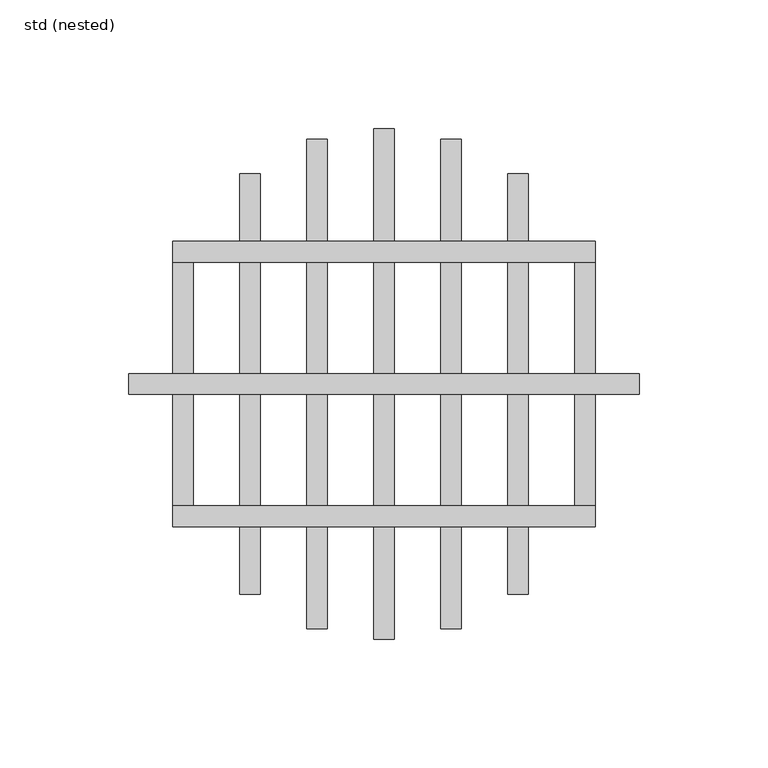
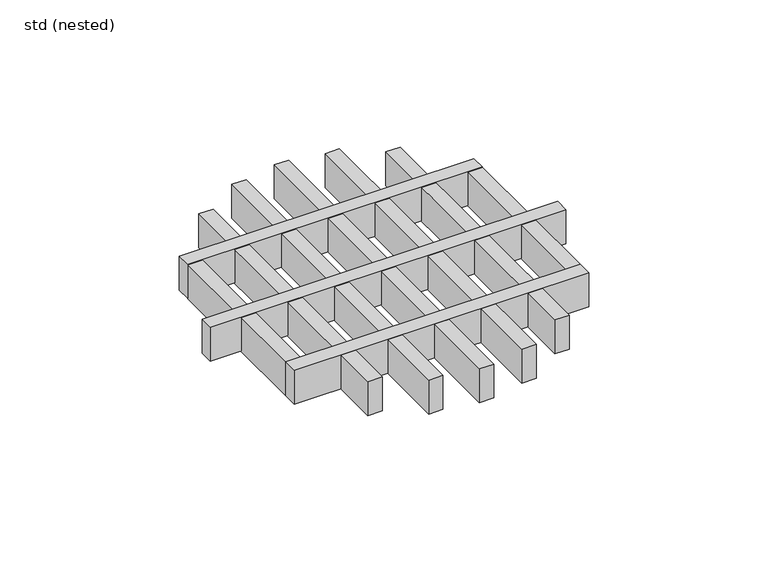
"""IFC4 building model written with IfcOpenShell, lengths in millimetres: sanitary terminal geometry, ZZZ_do not use_PF_ST_UN_round grating for hygienic gully_ACO : std (nested)."""

import ifcopenshell
import ifcopenshell.guid

model = None  # the IFC model being written
_history = None  # IfcOwnerHistory: only IFC2X3 demands one
_inside = {}  # id of a spatial element -> (the spatial element, [elements in it])
_under = {}  # id of a project, library or spatial element -> (it, [spatial elements below it])
_declared = {}  # id of a project -> (the project, [libraries it declares])
_typed = {}  # id of a type object -> (the type object, [elements of that type])
_made_of = {}  # id of a material, layer set ... -> (it, [elements and type objects made of it])


def new_model(schema):
    """Start an empty IFC model of exactly this schema.

    Asked for "IFC4X3", IfcOpenShell would pick the latest addendum, in which some entities
    have other attributes; the version numbers below select the first issue.
    IFC2X3 requires an IfcOwnerHistory on every rooted entity: one is made here for all.
    """
    global model, _history
    if schema == "IFC4X3":
        model = ifcopenshell.file(schema_version=(4, 3, 0, 0))
    else:
        model = ifcopenshell.file(schema=schema)
    _inside.clear()
    _under.clear()
    _declared.clear()
    _typed.clear()
    _made_of.clear()
    _history = None
    if model.schema == "IFC2X3":
        org = make("IfcOrganization", Name="unknown")
        user = make(
            "IfcPersonAndOrganization",
            ThePerson=make("IfcPerson", FamilyName="unknown"),
            TheOrganization=org,
        )
        app = make(
            "IfcApplication",
            ApplicationDeveloper=org,
            Version="unknown",
            ApplicationFullName="unknown",
            ApplicationIdentifier="unknown",
        )
        _history = make(
            "IfcOwnerHistory",
            OwningUser=user,
            OwningApplication=app,
            ChangeAction="ADDED",
            CreationDate=0,
        )
    return model


def make(cls, **values):
    """One entity of the class cls with the attributes given. An attribute that is None is left unset."""
    return model.create_entity(
        cls, **{name: value for name, value in values.items() if value is not None}
    )


def rooted(cls, **values):
    """An entity with a GlobalId (a new one), such as an element, a storey or a relation."""
    return make(cls, GlobalId=ifcopenshell.guid.new(), OwnerHistory=_history, **values)


def si_unit(unit_type, name, prefix=None):
    """IfcSIUnit, for example si_unit("LENGTHUNIT", "METRE", prefix="MILLI")."""
    return make("IfcSIUnit", UnitType=unit_type, Prefix=prefix, Name=name)


def assignment(units):
    """IfcUnitAssignment: the units of a project."""
    return None if units is None else make("IfcUnitAssignment", Units=units)


def point(xyz):
    """IfcCartesianPoint."""
    return None if xyz is None else make("IfcCartesianPoint", Coordinates=xyz)


def direction(xyz):
    """IfcDirection."""
    return None if xyz is None else make("IfcDirection", DirectionRatios=xyz)


def frame(location, z_axis=None, x_axis=None):
    """IfcAxis2Placement3D, a coordinate frame: its origin and axes. An axis left out is left unset."""
    return make(
        "IfcAxis2Placement3D",
        Location=point(location),
        Axis=direction(z_axis),
        RefDirection=direction(x_axis),
    )


def origin():
    """The frame at (0, 0, 0) with its axes left unset."""
    return frame((0.0, 0.0, 0.0))


def place(relative_to, where):
    """IfcLocalPlacement: puts the frame where relative to a parent placement (None: the world)."""
    return make(
        "IfcLocalPlacement", PlacementRelTo=relative_to, RelativePlacement=where
    )


def context(
    kind, dimensions, precision=None, world=None, true_north=None, identifier=None
):
    """IfcGeometricRepresentationContext, for example the 3D "Model" context."""
    return make(
        "IfcGeometricRepresentationContext",
        ContextIdentifier=identifier,
        ContextType=kind,
        CoordinateSpaceDimension=dimensions,
        Precision=precision,
        WorldCoordinateSystem=world,
        TrueNorth=true_north,
    )


def project(units=None, contexts=None):
    """IfcProject with its units and contexts."""
    return rooted(
        "IfcProject",
        Name="project",
        RepresentationContexts=contexts,
        UnitsInContext=assignment(units),
    )


def spatial(cls, under=None, at=None, **own):
    """A site, building, storey or space (cls), placed at a placement, below another one or the project."""
    s = rooted(cls, ObjectPlacement=at, **own)
    if under is not None:
        _under.setdefault(under.id(), (under, []))[1].append(s)
    return s


def polyline(points):
    """IfcPolyline through the points."""
    return make("IfcPolyline", Points=[point(p) for p in points])


def outline(outer, holes=None, kind="AREA"):
    """IfcArbitraryClosedProfileDef: a profile drawn as a closed curve; with holes, ...WithVoids."""
    if holes is None:
        return make("IfcArbitraryClosedProfileDef", ProfileType=kind, OuterCurve=outer)
    return make(
        "IfcArbitraryProfileDefWithVoids",
        ProfileType=kind,
        OuterCurve=outer,
        InnerCurves=holes,
    )


def extrude(swept, where, along, depth):
    """IfcExtrudedAreaSolid: the profile swept, set in the frame where, extruded along a direction by depth."""
    return make(
        "IfcExtrudedAreaSolid",
        SweptArea=swept,
        Position=where,
        ExtrudedDirection=direction(along),
        Depth=depth,
    )


def shape(context_of_items, identifier, shape_type, items):
    """IfcShapeRepresentation: the items that make up one representation, for example the "Body"."""
    return make(
        "IfcShapeRepresentation",
        ContextOfItems=context_of_items,
        RepresentationIdentifier=identifier,
        RepresentationType=shape_type,
        Items=items,
    )


def source(mapping_origin, context_of_items, identifier, shape_type, items):
    """IfcRepresentationMap: a shape defined once, which mapped items show again and again."""
    return make(
        "IfcRepresentationMap",
        MappingOrigin=mapping_origin,
        MappedRepresentation=shape(context_of_items, identifier, shape_type, items),
    )


def transform(
    local_origin,
    x_axis=None,
    y_axis=None,
    z_axis=None,
    scale=None,
    scale2=None,
    scale3=None,
    uniform=True,
):
    """IfcCartesianTransformationOperator3D, or its non-uniform kind. x_axis, y_axis, z_axis: its Axis1, 2, 3."""
    if uniform:
        return make(
            "IfcCartesianTransformationOperator3D",
            Axis1=direction(x_axis),
            Axis2=direction(y_axis),
            LocalOrigin=point(local_origin),
            Scale=scale,
            Axis3=direction(z_axis),
        )
    return make(
        "IfcCartesianTransformationOperator3DnonUniform",
        Axis1=direction(x_axis),
        Axis2=direction(y_axis),
        LocalOrigin=point(local_origin),
        Scale=scale,
        Axis3=direction(z_axis),
        Scale2=scale2,
        Scale3=scale3,
    )


def mapped(mapping_source, mapping_target):
    """IfcMappedItem: shows the shape of a source again, moved by a transform."""
    return make(
        "IfcMappedItem", MappingSource=mapping_source, MappingTarget=mapping_target
    )


def made_of(thing, what):
    """Note that an element or type object is made of a material, layer set ...; save() writes the relation."""
    if what is not None:
        _made_of.setdefault(what.id(), (what, []))[1].append(thing)
    return thing


def element(
    cls,
    number,
    at=None,
    inside=None,
    cuts=None,
    type_object=None,
    material=None,
    context=None,
    identifier="Body",
    shape_type=None,
    held_by="IfcProductDefinitionShape",
    body=None,
    shapes=None,
    **own,
):
    """One element of the class cls, such as IfcWall. Its Tag is "e" and its number.

    at: its placement. inside: the storey or other place that contains it. cuts: it is an
    opening in that element (IfcRelVoidsElement). A single representation is given by context,
    identifier, shape_type and body (its items); several are given by shapes. held_by: the class
    of the entity that holds the representations. save() writes the other relations.
    """
    e = rooted(cls, Tag="e%d" % number, ObjectPlacement=at, **own)
    if body is not None:
        shapes = [shape(context, identifier, shape_type, body)]
    if shapes is not None:
        e.Representation = make(held_by, Representations=shapes)
    if inside is not None:
        _inside.setdefault(inside.id(), (inside, []))[1].append(e)
    if cuts is not None:
        rooted(
            "IfcRelVoidsElement", RelatingBuildingElement=cuts, RelatedOpeningElement=e
        )
    if type_object is not None:
        _typed.setdefault(type_object.id(), (type_object, []))[1].append(e)
    return made_of(e, material)


def aggregate(whole, parts):
    """IfcRelAggregates: a whole, such as a stair, and the parts it consists of."""
    return rooted("IfcRelAggregates", RelatingObject=whole, RelatedObjects=parts)


def save(model, path):
    """Write the relations noted so far, then the file.

    IfcRelAggregates (storeys below a building ...), IfcRelContainedInSpatialStructure (elements
    in a storey), IfcRelDefinesByType, IfcRelAssociatesMaterial and IfcRelDeclares: one each for
    every whole, place, type object, material and project.
    """
    for whole, parts in _under.values():
        aggregate(whole, parts)
    for where, things in _inside.values():
        rooted(
            "IfcRelContainedInSpatialStructure",
            RelatedElements=things,
            RelatingStructure=where,
        )
    for kind, things in _typed.values():
        rooted("IfcRelDefinesByType", RelatedObjects=things, RelatingType=kind)
    for what, things in _made_of.values():
        rooted("IfcRelAssociatesMaterial", RelatedObjects=things, RelatingMaterial=what)
    for by, libraries in _declared.values():
        rooted("IfcRelDeclares", RelatingContext=by, RelatedDefinitions=libraries)
    model.write(path)


def std_nested_a4153f76(model_context):
    return source(origin(), model_context, "Body", "SweptSolid", [
        extrude(outline(polyline([(-82.0, -47.3), (82.0, -47.3), (82.0, -55.3), (-82.0, -55.3), (-82.0, -47.3)])), frame((0.0, 0.0, -20.0), z_axis=(0.0, 0.0, 1.0), x_axis=(1.0, 0.0, 0.0)), (0.0, 0.0, 1.0), 20.0),
        extrude(outline(polyline([(-82.0, 55.3), (82.0, 55.3), (82.0, 47.3), (-82.0, 47.3), (-82.0, 55.3)])), frame((0.0, 0.0, -20.0), z_axis=(0.0, 0.0, 1.0), x_axis=(1.0, 0.0, 0.0)), (0.0, 0.0, 1.0), 20.0),
        extrude(outline(polyline([(-99.0, 4.0), (99.0, 4.0), (99.0, -4.0), (-99.0, -4.0), (-99.0, 4.0)])), frame((0.0, 0.0, -20.0), z_axis=(0.0, 0.0, 1.0), x_axis=(1.0, 0.0, 0.0)), (0.0, 0.0, 1.0), 20.0),
        extrude(outline(polyline([(82.0, 47.25), (82.0, -47.25), (74.0, -47.25), (74.0, 47.25), (82.0, 47.25)])), frame((0.0, 0.0, -20.0), z_axis=(0.0, 0.0, 1.0), x_axis=(1.0, 0.0, 0.0)), (0.0, 0.0, 1.0), 20.0),
        extrude(outline(polyline([(56.0, 81.5), (56.0, -81.5), (48.0, -81.5), (48.0, 81.5), (56.0, 81.5)])), frame((0.0, 0.0, -20.0), z_axis=(0.0, 0.0, 1.0), x_axis=(1.0, 0.0, 0.0)), (0.0, 0.0, 1.0), 20.0),
        extrude(outline(polyline([(30.0, 95.0), (30.0, -95.0), (22.0, -95.0), (22.0, 95.0), (30.0, 95.0)])), frame((0.0, 0.0, -20.0), z_axis=(0.0, 0.0, 1.0), x_axis=(1.0, 0.0, 0.0)), (0.0, 0.0, 1.0), 20.0),
        extrude(outline(polyline([(-74.0, 47.25), (-74.0, -47.25), (-82.0, -47.25), (-82.0, 47.25), (-74.0, 47.25)])), frame((0.0, 0.0, -20.0), z_axis=(0.0, 0.0, 1.0), x_axis=(1.0, 0.0, 0.0)), (0.0, 0.0, 1.0), 20.0),
        extrude(outline(polyline([(-48.0, 81.5), (-48.0, -81.5), (-56.0, -81.5), (-56.0, 81.5), (-48.0, 81.5)])), frame((0.0, 0.0, -20.0), z_axis=(0.0, 0.0, 1.0), x_axis=(1.0, 0.0, 0.0)), (0.0, 0.0, 1.0), 20.0),
        extrude(outline(polyline([(-22.0, 95.0), (-22.0, -95.0), (-30.0, -95.0), (-30.0, 95.0), (-22.0, 95.0)])), frame((0.0, 0.0, -20.0), z_axis=(0.0, 0.0, 1.0), x_axis=(1.0, 0.0, 0.0)), (0.0, 0.0, 1.0), 20.0),
        extrude(outline(polyline([(4.0, 99.0), (4.0, -99.0), (-4.0, -99.0), (-4.0, 99.0), (4.0, 99.0)])), frame((0.0, 0.0, -20.0), z_axis=(0.0, 0.0, 1.0), x_axis=(1.0, 0.0, 0.0)), (0.0, 0.0, 1.0), 20.0),
    ])


if __name__ == "__main__":
    model = new_model("IFC4")
    model_context = context("Model", 3, world=origin())
    ifc_project = project(units=[si_unit("LENGTHUNIT", "METRE", prefix="MILLI")], contexts=[model_context])
    site = spatial("IfcSite", under=ifc_project)
    building = spatial("IfcBuilding", under=site)
    placement = place(None, origin())
    std_nested_shape = std_nested_a4153f76(model_context)
    element("IfcSanitaryTerminal", 1, ObjectType="ZZZ_do not use_PF_ST_UN_round grating for hygienic gully_ACO : std (nested)", at=placement, inside=building, context=model_context, shape_type="MappedRepresentation", body=[
        mapped(std_nested_shape, transform((0.0, 0.0, 0.0), x_axis=(1.0, 0.0, 0.0), y_axis=(0.0, 1.0, 0.0), z_axis=(0.0, 0.0, 1.0))),
    ])
    save(model, "model.ifc")
